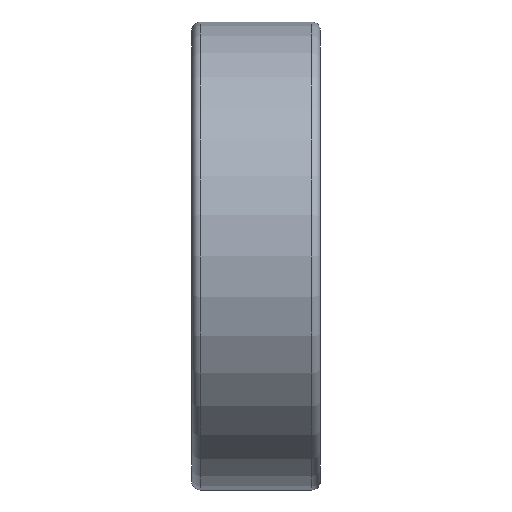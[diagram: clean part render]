
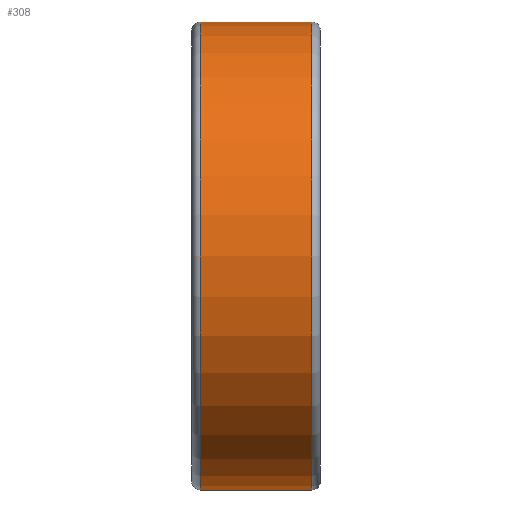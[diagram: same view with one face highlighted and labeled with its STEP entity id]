
A CAD part, front view. The second image highlights one B-rep face of the part: STEP entity #308.
In plain terms, the highlighted cylindrical face has radius 31 mm (diameter 62 mm), a full revolution.
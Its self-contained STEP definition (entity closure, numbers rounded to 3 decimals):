
#308 = ADVANCED_FACE( '', ( #406, #407 ), #408, .T. );
#406 = FACE_OUTER_BOUND( '', #509, .T. );
#407 = FACE_OUTER_BOUND( '', #510, .T. );
#408 = CYLINDRICAL_SURFACE( '', #511, 31. );
#509 = EDGE_LOOP( '', ( #671 ) );
#510 = EDGE_LOOP( '', ( #672 ) );
#511 = AXIS2_PLACEMENT_3D( '', #673, #674, #675 );
#671 = ORIENTED_EDGE( '', *, *, #720, .T. );
#672 = ORIENTED_EDGE( '', *, *, #719, .F. );
#673 = CARTESIAN_POINT( '', ( 50., 0., 0. ) );
#674 = DIRECTION( '', ( -1., 0., 0. ) );
#675 = DIRECTION( '', ( 0., 0., -1. ) );
#719 = EDGE_CURVE( '', #783, #783, #784, .T. );
#720 = EDGE_CURVE( '', #785, #785, #786, .T. );
#783 = VERTEX_POINT( '', #847 );
#784 = CIRCLE( '', #848, 31. );
#785 = VERTEX_POINT( '', #849 );
#786 = CIRCLE( '', #850, 31. );
#847 = CARTESIAN_POINT( '', ( 15.9, 0., -31. ) );
#848 = AXIS2_PLACEMENT_3D( '', #941, #942, #943 );
#849 = CARTESIAN_POINT( '', ( 1.1, 0., -31. ) );
#850 = AXIS2_PLACEMENT_3D( '', #944, #945, #946 );
#941 = CARTESIAN_POINT( '', ( 15.9, 0., 0. ) );
#942 = DIRECTION( '', ( 1., 0., 0. ) );
#943 = DIRECTION( '', ( 0., 0., -1. ) );
#944 = CARTESIAN_POINT( '', ( 1.1, 0., 0. ) );
#945 = DIRECTION( '', ( 1., 0., 0. ) );
#946 = DIRECTION( '', ( 0., 0., -1. ) );
